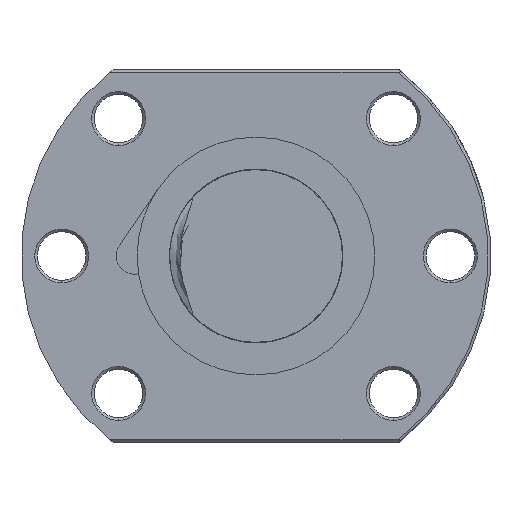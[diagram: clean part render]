
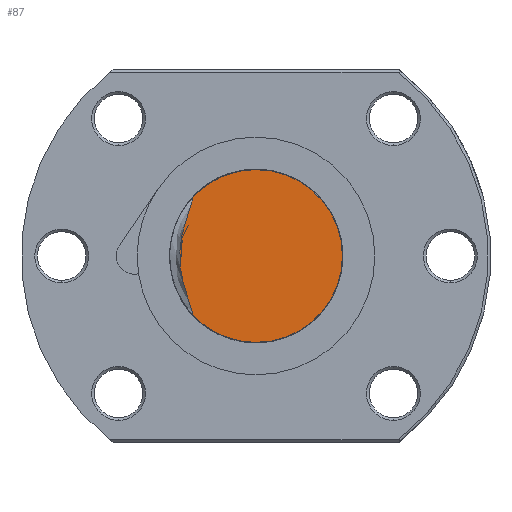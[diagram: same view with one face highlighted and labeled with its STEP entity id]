
A CAD part, left-side view. The second image highlights one B-rep face of the part: STEP entity #87.
In plain terms, the highlighted planar face has unit normal (-1, 0, 0).
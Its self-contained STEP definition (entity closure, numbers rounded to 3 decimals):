
#73 = ORIENTED_EDGE ( 'NONE', *, *, #17139, .F. ) ;
#80 = ORIENTED_EDGE ( 'NONE', *, *, #18231, .F. ) ;
#82 = ORIENTED_EDGE ( 'NONE', *, *, #18490, .F. ) ;
#83 = EDGE_LOOP ( 'NONE', ( #82, #84, #80, #73 ) ) ;
#84 = ORIENTED_EDGE ( 'NONE', *, *, #88, .T. ) ;
#87 = ADVANCED_FACE ( 'NONE', ( #17654 ), #17653, .F. ) ;
#88 = EDGE_CURVE ( 'NONE', #18491, #18219, #17610, .T. ) ;
#2218 = DIRECTION ( 'NONE',  ( 0., 1., 0. ) ) ;
#2219 = DIRECTION ( 'NONE',  ( 1., 0., 0. ) ) ;
#2220 = CARTESIAN_POINT ( 'NONE',  ( -240., 0., 0. ) ) ;
#2221 = AXIS2_PLACEMENT_3D ( 'NONE', #2220, #2219, #2218 ) ;
#2222 = CIRCLE ( 'NONE', #2221, 16. ) ;
#3684 = CARTESIAN_POINT ( 'NONE',  ( -240., 11.759, -10.85 ) ) ;
#3748 = DIRECTION ( 'NONE',  ( 0., 1., 0. ) ) ;
#3749 = DIRECTION ( 'NONE',  ( 1., 0., 0. ) ) ;
#3750 = CARTESIAN_POINT ( 'NONE',  ( -240., 0., 0. ) ) ;
#3751 = AXIS2_PLACEMENT_3D ( 'NONE', #3750, #3749, #3748 ) ;
#3752 = CIRCLE ( 'NONE', #3751, 16. ) ;
#3753 = CARTESIAN_POINT ( 'NONE',  ( -240., 0., -16. ) ) ;
#17139 = EDGE_CURVE ( 'NONE', #18492, #18228, #2222, .T. ) ;
#17589 = CARTESIAN_POINT ( 'NONE',  ( -240., 13.989, -2.318 ) ) ;
#17590 = CARTESIAN_POINT ( 'NONE',  ( -240., 14.037, -1.851 ) ) ;
#17591 = CARTESIAN_POINT ( 'NONE',  ( -240., 14.101, -0.922 ) ) ;
#17592 = CARTESIAN_POINT ( 'NONE',  ( -240., 14.117, -0.458 ) ) ;
#17593 = CARTESIAN_POINT ( 'NONE',  ( -240., 14.117, 0.929 ) ) ;
#17594 = CARTESIAN_POINT ( 'NONE',  ( -240., 14.053, 1.85 ) ) ;
#17595 = CARTESIAN_POINT ( 'NONE',  ( -240., 13.863, 3.223 ) ) ;
#17596 = CARTESIAN_POINT ( 'NONE',  ( -240., 13.784, 3.68 ) ) ;
#17597 = CARTESIAN_POINT ( 'NONE',  ( -240., 13.596, 4.591 ) ) ;
#17598 = CARTESIAN_POINT ( 'NONE',  ( -240., 13.487, 5.047 ) ) ;
#17599 = CARTESIAN_POINT ( 'NONE',  ( -240., 13.122, 6.4 ) ) ;
#17600 = CARTESIAN_POINT ( 'NONE',  ( -240., 12.826, 7.285 ) ) ;
#17601 = CARTESIAN_POINT ( 'NONE',  ( -240., 12.36, 8.606 ) ) ;
#17602 = CARTESIAN_POINT ( 'NONE',  ( -240., 12.201, 9.045 ) ) ;
#17603 = CARTESIAN_POINT ( 'NONE',  ( -240., 11.985, 9.711 ) ) ;
#17604 = CARTESIAN_POINT ( 'NONE',  ( -240., 11.917, 9.934 ) ) ;
#17605 = CARTESIAN_POINT ( 'NONE',  ( -240., 11.834, 10.272 ) ) ;
#17606 = CARTESIAN_POINT ( 'NONE',  ( -240., 11.809, 10.386 ) ) ;
#17607 = CARTESIAN_POINT ( 'NONE',  ( -240., 11.772, 10.615 ) ) ;
#17608 = CARTESIAN_POINT ( 'NONE',  ( -240., 11.759, 10.732 ) ) ;
#17609 = CARTESIAN_POINT ( 'NONE',  ( -240., 11.759, 10.85 ) ) ;
#17610 = B_SPLINE_CURVE_WITH_KNOTS ( 'NONE', 3,
 ( #17609, #17608, #17607, #17606, #17605, #17604, #17603, #17602, #17601, #17600, #17599, #17598, #17597, #17596, #17595, #17594, #17593, #17592, #17591, #17590, #17589, #17648, #17647, #17646, #17645, #17644, #17643, #17642, #17641, #17640, #17639, #17638, #17637, #17636 ),
 .UNSPECIFIED., .F., .F.,
 ( 4, 2, 2, 2, 2, 2, 2, 2, 2, 2, 2, 2, 2, 2, 2, 2, 4 ),
 ( 0.006, 0.006, 0.007, 0.007, 0.009, 0.011, 0.013, 0.014, 0.017, 0.018, 0.02, 0.022, 0.025, 0.026, 0.027, 0.028, 0.028 ),
 .UNSPECIFIED. ) ;
#17636 = CARTESIAN_POINT ( 'NONE',  ( -240., 11.759, -10.85 ) ) ;
#17637 = CARTESIAN_POINT ( 'NONE',  ( -240., 11.759, -10.731 ) ) ;
#17638 = CARTESIAN_POINT ( 'NONE',  ( -240., 11.772, -10.613 ) ) ;
#17639 = CARTESIAN_POINT ( 'NONE',  ( -240., 11.81, -10.381 ) ) ;
#17640 = CARTESIAN_POINT ( 'NONE',  ( -240., 11.835, -10.268 ) ) ;
#17641 = CARTESIAN_POINT ( 'NONE',  ( -240., 11.918, -9.928 ) ) ;
#17642 = CARTESIAN_POINT ( 'NONE',  ( -240., 11.986, -9.706 ) ) ;
#17643 = CARTESIAN_POINT ( 'NONE',  ( -240., 12.202, -9.042 ) ) ;
#17644 = CARTESIAN_POINT ( 'NONE',  ( -240., 12.361, -8.604 ) ) ;
#17645 = CARTESIAN_POINT ( 'NONE',  ( -240., 12.826, -7.285 ) ) ;
#17646 = CARTESIAN_POINT ( 'NONE',  ( -240., 13.121, -6.403 ) ) ;
#17647 = CARTESIAN_POINT ( 'NONE',  ( -240., 13.605, -4.611 ) ) ;
#17648 = CARTESIAN_POINT ( 'NONE',  ( -240., 13.796, -3.703 ) ) ;
#17649 = DIRECTION ( 'NONE',  ( 0., 0., -1. ) ) ;
#17650 = DIRECTION ( 'NONE',  ( 1., 0., 0. ) ) ;
#17651 = CARTESIAN_POINT ( 'NONE',  ( -240., 0., 0. ) ) ;
#17652 = AXIS2_PLACEMENT_3D ( 'NONE', #17651, #17650, #17649 ) ;
#17653 = PLANE ( 'NONE',  #17652 ) ;
#17654 = FACE_OUTER_BOUND ( 'NONE', #83, .T. ) ;
#18219 = VERTEX_POINT ( 'NONE', #3684 ) ;
#18228 = VERTEX_POINT ( 'NONE', #3753 ) ;
#18231 = EDGE_CURVE ( 'NONE', #18228, #18219, #3752, .T. ) ;
#18490 = EDGE_CURVE ( 'NONE', #18491, #18492, #24892, .T. ) ;
#18491 = VERTEX_POINT ( 'NONE', #24963 ) ;
#18492 = VERTEX_POINT ( 'NONE', #24962 ) ;
#24892 = CIRCLE ( 'NONE', #24967, 16. ) ;
#24962 = CARTESIAN_POINT ( 'NONE',  ( -240., 0., 16. ) ) ;
#24963 = CARTESIAN_POINT ( 'NONE',  ( -240., 11.759, 10.85 ) ) ;
#24964 = DIRECTION ( 'NONE',  ( 0., 1., 0. ) ) ;
#24965 = DIRECTION ( 'NONE',  ( 1., 0., 0. ) ) ;
#24966 = CARTESIAN_POINT ( 'NONE',  ( -240., 0., 0. ) ) ;
#24967 = AXIS2_PLACEMENT_3D ( 'NONE', #24966, #24965, #24964 ) ;
